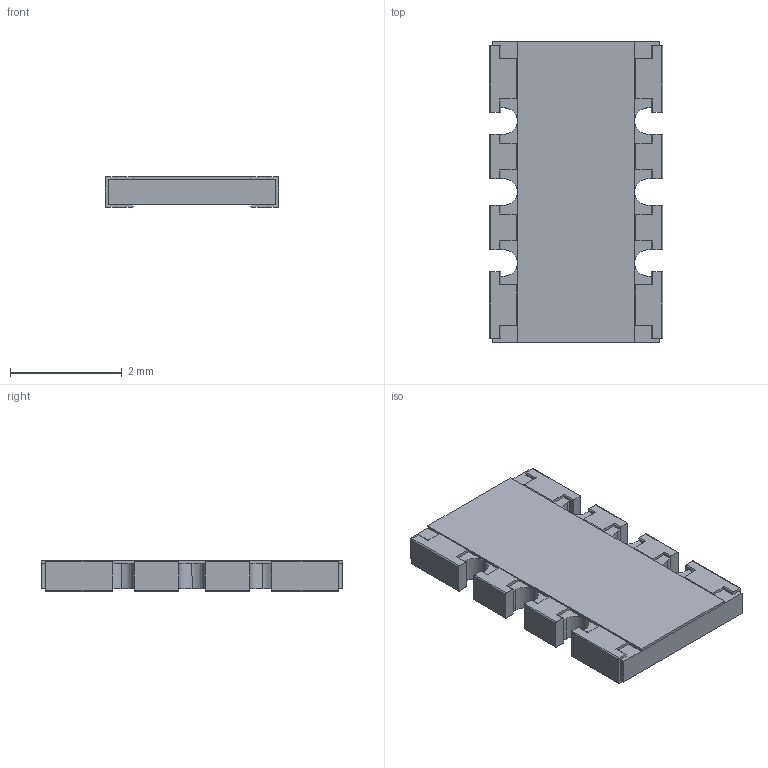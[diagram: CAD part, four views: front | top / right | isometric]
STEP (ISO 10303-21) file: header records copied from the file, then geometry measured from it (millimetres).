
FILE_DESCRIPTION (( 'STEP AP214' ), '1' );
FILE_NAME ('R_Array_Convex_4x1206_navX2-mxp-cad.step', '2025-12-23T16:04:29', ( '' ), ( '' ), 'SwSTEP 2.0', 'SolidWorks 2026', '' );
FILE_SCHEMA (( 'AUTOMOTIVE_DESIGN' ));
Length unit declared in the file: inch
Products named in the file (2): R_Array_Convex_4x1206_navX2-mxp-cad; SOLID-2_R_Array_Convex_4x1206_navX2-mxp-cad
Assembly tree (1 placements, depth 2):
  R_Array_Convex_4x1206_navX2-mxp-cad
    SOLID-2_R_Array_Convex_4x1206_navX2-mxp-cad
Bounding box: 3.1 x 5.4 x 0.55 mm (x, y, z)
Volume: 7.9 mm3; surface area: 43.7 mm2
Topology: 1 solids, 1 shells, 224 faces, 634 edges, 412 vertices
Faces by surface type: plane 148, cylinder 76
Entity records: 7275 total; most frequent: CARTESIAN_POINT 1274, ORIENTED_EDGE 1268, DIRECTION 1242, EDGE_CURVE 634, VECTOR 482, LINE 482, VERTEX_POINT 412, AXIS2_PLACEMENT_3D 380
